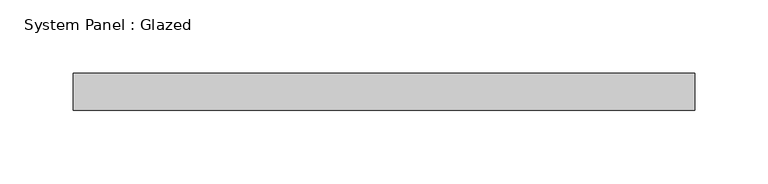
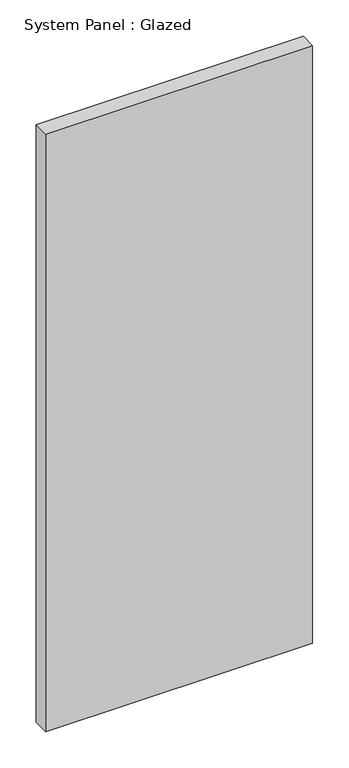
"""IFC4 building model written with IfcOpenShell, lengths in millimetres: plate geometry, System Panel : Glazed."""

from ifc_helpers import new_model, si_unit, origin, origin_with_axes, place, context, project, spatial, polyline, outline, extrude, source, transform, mapped, element, save


def system_panel_glazed_0324e248(model_context):
    return source(origin(), model_context, "Body", "SweptSolid", [
        extrude(outline(polyline([(211.470166, 24.5), (-211.470166, 24.5), (-211.470166, 49.5), (211.470166, 49.5), (211.470166, 24.5)])), origin_with_axes(), (0.0, 0.0, 1.0), 1000.0),
    ])


if __name__ == "__main__":
    model = new_model("IFC4")
    model_context = context("Model", 3, world=origin())
    ifc_project = project(units=[si_unit("LENGTHUNIT", "METRE", prefix="MILLI")], contexts=[model_context])
    site = spatial("IfcSite", under=ifc_project)
    building = spatial("IfcBuilding", under=site)
    placement = place(None, origin())
    system_panel_glazed_shape = system_panel_glazed_0324e248(model_context)
    element("IfcPlate", 1, ObjectType="System Panel : Glazed", at=placement, inside=building, context=model_context, shape_type="MappedRepresentation", body=[
        mapped(system_panel_glazed_shape, transform((0.0, 0.0, 0.0), x_axis=(1.0, 0.0, 0.0), y_axis=(0.0, 1.0, 0.0), z_axis=(0.0, 0.0, 1.0))),
    ])
    save(model, "model.ifc")
